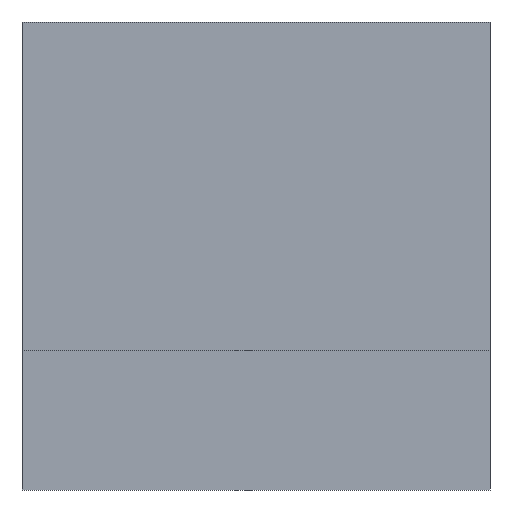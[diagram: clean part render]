
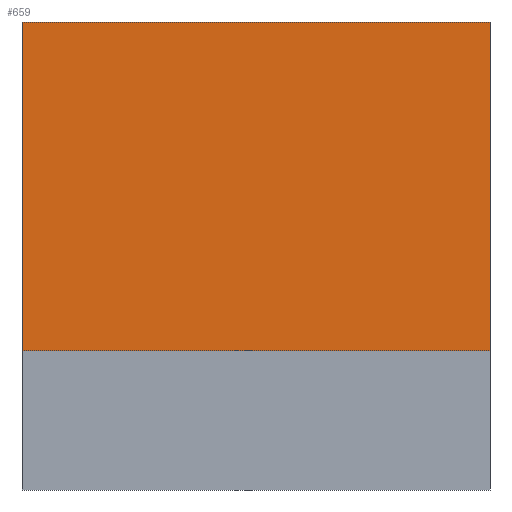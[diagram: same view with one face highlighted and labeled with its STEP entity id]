
A CAD part, front view. The second image highlights one B-rep face of the part: STEP entity #659.
In plain terms, the highlighted planar face has unit normal (0, -1, 0).
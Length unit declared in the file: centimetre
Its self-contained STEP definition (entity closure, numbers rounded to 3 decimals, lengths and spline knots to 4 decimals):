
#37 = CARTESIAN_POINT ( 'NONE',  ( 0., 0., 1000. ) ) ;
#72 = LINE ( 'NONE', #656, #631 ) ;
#79 = LINE ( 'NONE', #298, #833 ) ;
#81 = CARTESIAN_POINT ( 'NONE',  ( 0., 0., 1000. ) ) ;
#151 = CARTESIAN_POINT ( 'NONE',  ( 0., 0., 298.0287 ) ) ;
#231 = DIRECTION ( 'NONE',  ( 0., 0., -1. ) ) ;
#265 = PLANE ( 'NONE',  #617 ) ;
#268 = ORIENTED_EDGE ( 'NONE', *, *, #814, .T. ) ;
#270 = DIRECTION ( 'NONE',  ( 0., 1., 0. ) ) ;
#276 = DIRECTION ( 'NONE',  ( 0., 0., 1. ) ) ;
#298 = CARTESIAN_POINT ( 'NONE',  ( 0., 0., 1000. ) ) ;
#357 = ORIENTED_EDGE ( 'NONE', *, *, #422, .F. ) ;
#385 = VERTEX_POINT ( 'NONE', #81 ) ;
#422 = EDGE_CURVE ( 'NONE', #523, #724, #72, .T. ) ;
#469 = ORIENTED_EDGE ( 'NONE', *, *, #828, .T. ) ;
#496 = EDGE_CURVE ( 'NONE', #385, #523, #690, .T. ) ;
#522 = LINE ( 'NONE', #151, #861 ) ;
#523 = VERTEX_POINT ( 'NONE', #554 ) ;
#554 = CARTESIAN_POINT ( 'NONE',  ( 1000., 0., 1000. ) ) ;
#577 = VECTOR ( 'NONE', #906, 100. ) ;
#617 = AXIS2_PLACEMENT_3D ( 'NONE', #776, #270, #276 ) ;
#631 = VECTOR ( 'NONE', #935, 100. ) ;
#656 = CARTESIAN_POINT ( 'NONE',  ( 1000., 0., 1000. ) ) ;
#657 = CARTESIAN_POINT ( 'NONE',  ( 0., 0., 298.0287 ) ) ;
#659 = ADVANCED_FACE ( 'NONE', ( #713 ), #265, .F. ) ;
#690 = LINE ( 'NONE', #37, #577 ) ;
#703 = EDGE_LOOP ( 'NONE', ( #268, #469, #357, #815 ) ) ;
#713 = FACE_OUTER_BOUND ( 'NONE', #703, .T. ) ;
#724 = VERTEX_POINT ( 'NONE', #809 ) ;
#737 = DIRECTION ( 'NONE',  ( 1., 0., 0. ) ) ;
#776 = CARTESIAN_POINT ( 'NONE',  ( 0., 0., 1000. ) ) ;
#799 = VERTEX_POINT ( 'NONE', #657 ) ;
#809 = CARTESIAN_POINT ( 'NONE',  ( 1000., 0., 298.0287 ) ) ;
#814 = EDGE_CURVE ( 'NONE', #385, #799, #79, .T. ) ;
#815 = ORIENTED_EDGE ( 'NONE', *, *, #496, .F. ) ;
#828 = EDGE_CURVE ( 'NONE', #799, #724, #522, .T. ) ;
#833 = VECTOR ( 'NONE', #231, 100. ) ;
#861 = VECTOR ( 'NONE', #737, 100. ) ;
#906 = DIRECTION ( 'NONE',  ( 1., 0., 0. ) ) ;
#935 = DIRECTION ( 'NONE',  ( 0., 0., -1. ) ) ;
